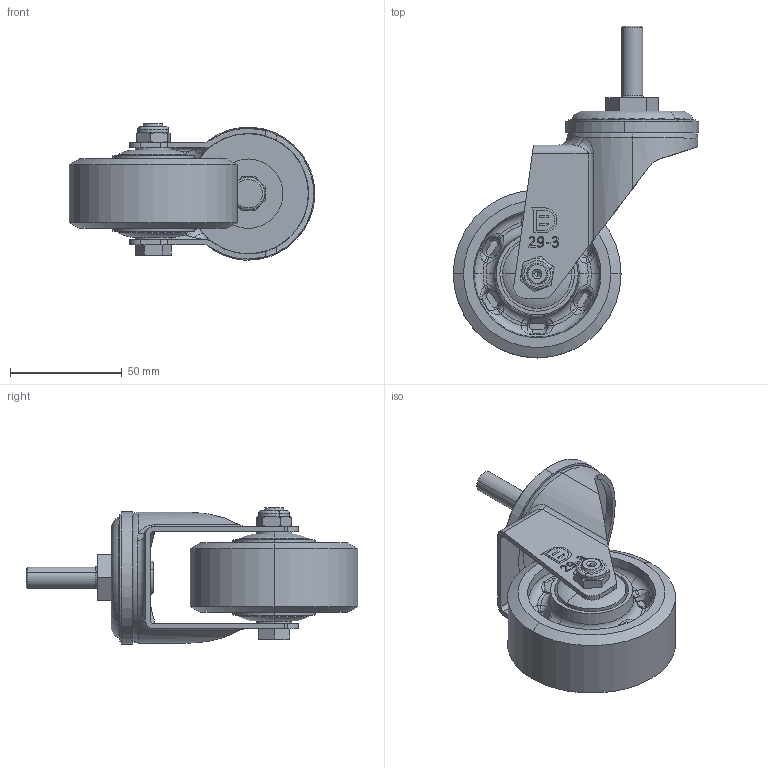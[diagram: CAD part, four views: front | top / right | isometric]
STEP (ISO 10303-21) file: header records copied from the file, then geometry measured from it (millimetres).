
FILE_DESCRIPTION (( 'STEP AP203' ), '1' );
FILE_NAME ('4112903002024-7.STEP', '2025-01-06T01:02:24', ( '' ), ( '' ), 'SwSTEP 2.0', 'SolidWorks 2019', '' );
FILE_SCHEMA (( 'CONFIG_CONTROL_DESIGN' ));
Length unit declared in the file: millimetre
Products named in the file (9): 上珠碗; 245042402001 墊圈-電鍍 23x15.2x2.3t_084048; 4112903002024-7; 242020954001 4''''.5''''儀器.高級活動用車心 20240124A8; 4201093202 3、4、5''''高級和4、5''''儀器架用牙心 8分之3''''-16牙x32L(New); 245020900003 尼龍螺帽  3 8''''(對邊14x7L); 246040000017 29系列上珠碗防塵圈3''''.4''''.5''''共用; 29系列活動絲扣3吋展示用腳架; 1235030020 W全效輪組(Resolute) 3''''(75x31-珠光深灰6002單)-42寬_133519
Assembly tree (8 placements, depth 2):
  4112903002024-7
    29系列活動絲扣3吋展示用腳架
    上珠碗
    245020900003 尼龍螺帽  3 8''''(對邊14x7L)
    246040000017 29系列上珠碗防塵圈3''''.4''''.5''''共用
    245042402001 墊圈-電鍍 23x15.2x2.3t_084048
    242020954001 4''''.5''''儀器.高級活動用車心 20240124A8
    1235030020 W全效輪組(Resolute) 3''''(75x31-珠光深灰6002單)-42寬_133519
    4201093202 3、4、5''''高級和4、5''''儀器架用牙心 8分之3''''-16牙x32L(New)
Bounding box: 109.71 x 148.3 x 60.91 mm (x, y, z)
Volume: 166833.2 mm3; surface area: 62529.2 mm2
Topology: 8 solids, 8 shells, 417 faces, 1055 edges, 683 vertices
Faces by surface type: plane 140, bspline 112, cylinder 97, cone 34, torus 32, sphere 2
Entity records: 24302 total; most frequent: CARTESIAN_POINT 13928, ORIENTED_EDGE 2110, DIRECTION 1765, EDGE_CURVE 1055, AXIS2_PLACEMENT_3D 698, VERTEX_POINT 683, EDGE_LOOP 464, ADVANCED_FACE 417
